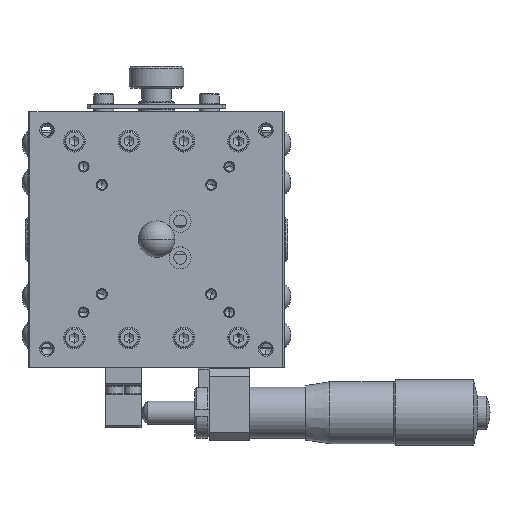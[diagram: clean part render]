
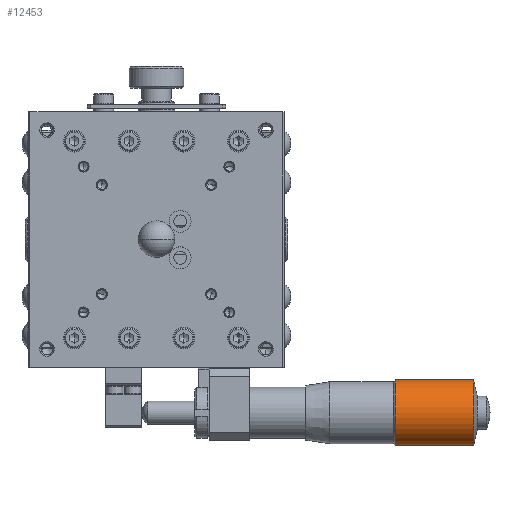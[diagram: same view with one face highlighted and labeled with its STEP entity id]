
A CAD part, top view. The second image highlights one B-rep face of the part: STEP entity #12453.
In plain terms, the highlighted cylindrical face has radius 9 mm (diameter 18 mm), a partial arc.
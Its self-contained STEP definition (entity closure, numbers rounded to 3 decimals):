
#12396 = EDGE_CURVE ( 'NONE', #12504, #12435, #28420, .T. ) ;
#12435 = VERTEX_POINT ( 'NONE', #28611 ) ;
#12439 = ORIENTED_EDGE ( 'NONE', *, *, #12490, .T. ) ;
#12453 = ADVANCED_FACE ( 'NONE', ( #28667 ), #28665, .T. ) ;
#12454 = ORIENTED_EDGE ( 'NONE', *, *, #12396, .F. ) ;
#12478 = VERTEX_POINT ( 'NONE', #28822 ) ;
#12487 = ORIENTED_EDGE ( 'NONE', *, *, #12506, .T. ) ;
#12490 = EDGE_CURVE ( 'NONE', #12478, #12435, #28914, .T. ) ;
#12491 = VERTEX_POINT ( 'NONE', #28909 ) ;
#12496 = ORIENTED_EDGE ( 'NONE', *, *, #12498, .F. ) ;
#12498 = EDGE_CURVE ( 'NONE', #12491, #12504, #28881, .T. ) ;
#12504 = VERTEX_POINT ( 'NONE', #28968 ) ;
#12506 = EDGE_CURVE ( 'NONE', #12491, #12478, #28962, .T. ) ;
#12535 = EDGE_LOOP ( 'NONE', ( #12487, #12439, #12454, #12496 ) ) ;
#28417 = CARTESIAN_POINT ( 'NONE',  ( 69.5, 0., 0. ) ) ;
#28419 = AXIS2_PLACEMENT_3D ( 'NONE', #28417, #28537, #28536 ) ;
#28420 = CIRCLE ( 'NONE', #28419, 9. ) ;
#28536 = DIRECTION ( 'NONE',  ( 0., -1., 0. ) ) ;
#28537 = DIRECTION ( 'NONE',  ( -1., 0., 0. ) ) ;
#28611 = CARTESIAN_POINT ( 'NONE',  ( 69.5, 9., 0. ) ) ;
#28661 = AXIS2_PLACEMENT_3D ( 'NONE', #28785, #28783, #28782 ) ;
#28665 = CYLINDRICAL_SURFACE ( 'NONE', #28661, 9. ) ;
#28667 = FACE_OUTER_BOUND ( 'NONE', #12535, .T. ) ;
#28782 = DIRECTION ( 'NONE',  ( 0., -1., 0. ) ) ;
#28783 = DIRECTION ( 'NONE',  ( -1., 0., 0. ) ) ;
#28785 = CARTESIAN_POINT ( 'NONE',  ( -2.669, 0., 0. ) ) ;
#28822 = CARTESIAN_POINT ( 'NONE',  ( 91., 9., 0. ) ) ;
#28876 = DIRECTION ( 'NONE',  ( -1., 0., 0. ) ) ;
#28878 = VECTOR ( 'NONE', #28876, 1000. ) ;
#28880 = CARTESIAN_POINT ( 'NONE',  ( -2.669, -9., 0. ) ) ;
#28881 = LINE ( 'NONE', #28880, #28878 ) ;
#28909 = CARTESIAN_POINT ( 'NONE',  ( 91., -9., 0. ) ) ;
#28910 = DIRECTION ( 'NONE',  ( -1., 0., 0. ) ) ;
#28911 = VECTOR ( 'NONE', #28910, 1000. ) ;
#28912 = CARTESIAN_POINT ( 'NONE',  ( -2.669, 9., 0. ) ) ;
#28914 = LINE ( 'NONE', #28912, #28911 ) ;
#28958 = DIRECTION ( 'NONE',  ( 0., -1., 0. ) ) ;
#28959 = DIRECTION ( 'NONE',  ( -1., 0., 0. ) ) ;
#28960 = CARTESIAN_POINT ( 'NONE',  ( 91., 0., 0. ) ) ;
#28961 = AXIS2_PLACEMENT_3D ( 'NONE', #28960, #28959, #28958 ) ;
#28962 = CIRCLE ( 'NONE', #28961, 9. ) ;
#28968 = CARTESIAN_POINT ( 'NONE',  ( 69.5, -9., 0. ) ) ;
